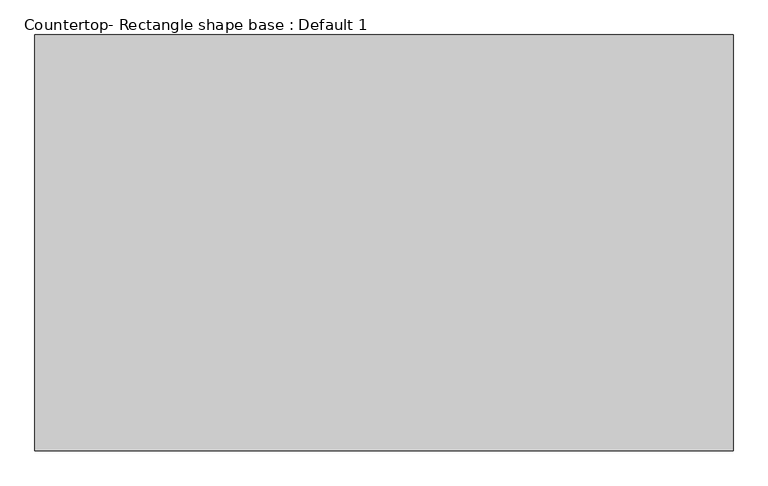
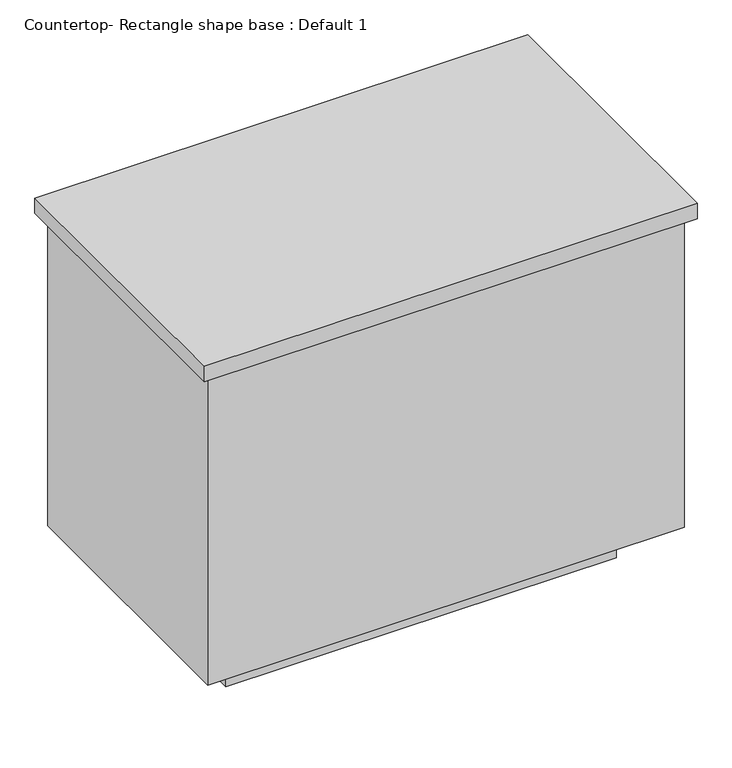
"""IFC4 building model written with IfcOpenShell, lengths in millimetres: proxy geometry, Countertop- Rectangle shape base : Default 1."""

from ifc_helpers import new_model, si_unit, frame, origin, origin_with_axes, place, context, project, spatial, polyline, outline, extrude, source, transform, mapped, element, save


def countertop_rectangle_shape_base_default_1_7ae78522(model_context):
    return source(origin(), model_context, "Body", "SweptSolid", [
        extrude(outline(polyline([(180.975, 34.925), (180.975, 727.075), (1343.025, 727.075), (1343.025, 34.925), (180.975, 34.925)])), frame((0.0, 0.0, 876.3), z_axis=(0.0, 0.0, 1.0), x_axis=(1.0, 0.0, 0.0)), (0.0, 0.0, 1.0), 38.1),
        extrude(outline(polyline([(1323.975, 708.025), (1323.975, 53.975), (200.025, 53.975), (200.025, 708.025), (1323.975, 708.025)])), frame((0.0, 0.0, 101.6), z_axis=(0.0, 0.0, 1.0), x_axis=(1.0, 0.0, 0.0)), (0.0, 0.0, 1.0), 774.7),
        extrude(outline(polyline([(1222.375, 606.425), (1222.375, 155.575), (301.625, 155.575), (301.625, 606.425), (1222.375, 606.425)])), origin_with_axes(), (0.0, 0.0, 1.0), 101.6),
    ])


if __name__ == "__main__":
    model = new_model("IFC4")
    model_context = context("Model", 3, world=origin())
    ifc_project = project(units=[si_unit("LENGTHUNIT", "METRE", prefix="MILLI")], contexts=[model_context])
    site = spatial("IfcSite", under=ifc_project)
    building = spatial("IfcBuilding", under=site)
    placement = place(None, origin())
    countertop_rectangle_shape_base_default_1_shape = countertop_rectangle_shape_base_default_1_7ae78522(model_context)
    element("IfcBuildingElementProxy", 1, Name="Countertop- Rectangle shape base : Default 1", ObjectType="Countertop- Rectangle shape base : Default 1", at=placement, inside=building, context=model_context, shape_type="MappedRepresentation", body=[
        mapped(countertop_rectangle_shape_base_default_1_shape, transform((0.0, 0.0, 0.0), x_axis=(1.0, 0.0, 0.0), y_axis=(0.0, 1.0, 0.0), z_axis=(0.0, 0.0, 1.0))),
    ])
    save(model, "model.ifc")
